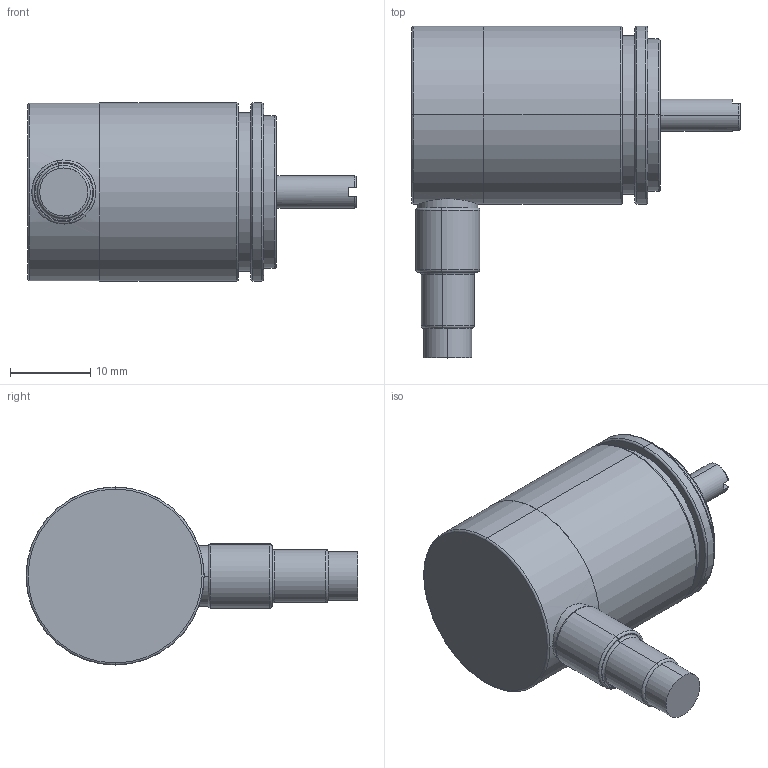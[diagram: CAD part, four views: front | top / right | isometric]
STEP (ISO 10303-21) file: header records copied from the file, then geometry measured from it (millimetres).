
FILE_DESCRIPTION (( 'STEP AP214' ), '1' );
FILE_NAME ('MAB22_radial.STEP', '2011-09-26T08:00:41', ( 'Mega' ), ( '' ), 'SwSTEP 2.0', 'SolidWorks 2007', '' );
FILE_SCHEMA (( 'AUTOMOTIVE_DESIGN' ));
Length unit declared in the file: millimetre
Products named in the file (1): MAB22_radial
Bounding box: 41 x 41.42 x 22.23 mm (x, y, z)
Surface area: 4743.6 mm2 (no closed solid volume)
Topology: 0 solids, 7 shells, 88 faces, 202 edges, 127 vertices
Faces by surface type: cylinder 34, torus 27, plane 19, cone 8
Entity records: 3580 total; most frequent: DIRECTION 514, CARTESIAN_POINT 506, ORIENTED_EDGE 372, AXIS2_PLACEMENT_3D 229, EDGE_CURVE 202, CIRCLE 140, VERTEX_POINT 127, EDGE_LOOP 103
